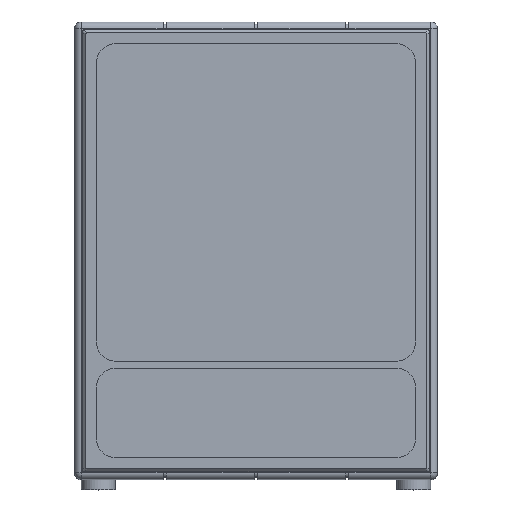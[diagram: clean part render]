
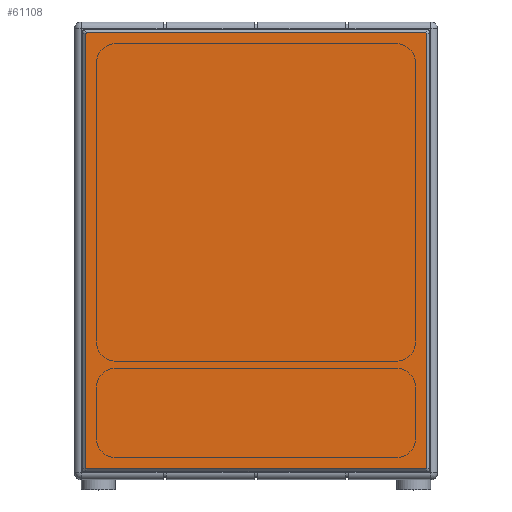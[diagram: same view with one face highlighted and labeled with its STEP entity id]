
A CAD part, top view. The second image highlights one B-rep face of the part: STEP entity #61108.
In plain terms, the highlighted planar face has unit normal (0, 0, 1).
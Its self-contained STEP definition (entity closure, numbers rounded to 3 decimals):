
#1302=ELLIPSE('',#66178,7.275,4.2);
#1305=ELLIPSE('',#66183,7.275,4.2);
#5009=B_SPLINE_CURVE_WITH_KNOTS('',3,(#187790,#187791,#187792,#187793,#187794,
#187795,#187796,#187797,#187798,#187799,#187800,#187801,#187802,#187803),
 .UNSPECIFIED.,.F.,.F.,(4,1,1,1,1,1,1,1,1,1,1,4),(0.,0.091,0.182,
0.273,0.364,0.455,0.545,0.636,
0.727,0.818,0.909,1.),.UNSPECIFIED.);
#5010=B_SPLINE_CURVE_WITH_KNOTS('',3,(#187807,#187808,#187809,#187810,#187811,
#187812,#187813,#187814,#187815,#187816,#187817,#187818,#187819,#187820),
 .UNSPECIFIED.,.F.,.F.,(4,1,1,1,1,1,1,1,1,1,1,4),(0.,0.091,0.182,
0.273,0.364,0.455,0.545,0.636,
0.727,0.818,0.909,1.),.UNSPECIFIED.);
#8776=FACE_OUTER_BOUND('',#12611,.T.);
#12611=EDGE_LOOP('',(#55730,#55731,#55732,#55733,#55734,#55735,#55736,#55737));
#19061=LINE('',#187787,#23668);
#19062=LINE('',#187805,#23669);
#19063=LINE('',#187821,#23670);
#19064=LINE('',#187822,#23671);
#23668=VECTOR('',#80645,499.285);
#23669=VECTOR('',#80648,639.343);
#23670=VECTOR('',#80649,499.285);
#23671=VECTOR('',#80650,639.226);
#29307=VERTEX_POINT('',#187739);
#29308=VERTEX_POINT('',#187741);
#29313=VERTEX_POINT('',#187754);
#29314=VERTEX_POINT('',#187756);
#29317=VERTEX_POINT('',#187785);
#29318=VERTEX_POINT('',#187789);
#29319=VERTEX_POINT('',#187804);
#29320=VERTEX_POINT('',#187806);
#38137=EDGE_CURVE('',#29308,#29307,#1302,.T.);
#38144=EDGE_CURVE('',#29314,#29313,#1305,.T.);
#38152=EDGE_CURVE('',#29313,#29317,#19061,.T.);
#38153=EDGE_CURVE('',#29317,#29318,#5009,.T.);
#38154=EDGE_CURVE('',#29318,#29319,#19062,.T.);
#38155=EDGE_CURVE('',#29319,#29320,#5010,.T.);
#38156=EDGE_CURVE('',#29320,#29308,#19063,.T.);
#38157=EDGE_CURVE('',#29307,#29314,#19064,.T.);
#55730=ORIENTED_EDGE('',*,*,#38144,.T.);
#55731=ORIENTED_EDGE('',*,*,#38152,.T.);
#55732=ORIENTED_EDGE('',*,*,#38153,.T.);
#55733=ORIENTED_EDGE('',*,*,#38154,.T.);
#55734=ORIENTED_EDGE('',*,*,#38155,.T.);
#55735=ORIENTED_EDGE('',*,*,#38156,.T.);
#55736=ORIENTED_EDGE('',*,*,#38137,.T.);
#55737=ORIENTED_EDGE('',*,*,#38157,.T.);
#57587=PLANE('',#66186);
#61108=ADVANCED_FACE('',(#8776),#57587,.F.);
#66178=AXIS2_PLACEMENT_3D('',#187742,#80620,#80621);
#66183=AXIS2_PLACEMENT_3D('',#187757,#80634,#80635);
#66186=AXIS2_PLACEMENT_3D('',#187788,#80646,#80647);
#80620=DIRECTION('center_axis',(0.,0.,1.));
#80621=DIRECTION('ref_axis',(0.707,0.707,0.));
#80634=DIRECTION('center_axis',(0.,0.,1.));
#80635=DIRECTION('ref_axis',(-0.707,0.707,0.));
#80645=DIRECTION('',(0.,-1.,0.));
#80646=DIRECTION('center_axis',(0.,0.,-1.));
#80647=DIRECTION('ref_axis',(0.,-1.,0.));
#80648=DIRECTION('',(1.,0.,0.));
#80649=DIRECTION('',(0.,1.,0.));
#80650=DIRECTION('',(-1.,0.,0.));
#187739=CARTESIAN_POINT('',(319.613,252.583,283.7));
#187741=CARTESIAN_POINT('',(322.583,249.613,283.7));
#187742=CARTESIAN_POINT('Origin',(316.643,246.643,283.7));
#187754=CARTESIAN_POINT('',(-322.583,249.613,283.7));
#187756=CARTESIAN_POINT('',(-319.613,252.583,283.7));
#187757=CARTESIAN_POINT('Origin',(-316.643,246.643,283.7));
#187785=CARTESIAN_POINT('',(-322.583,-249.672,283.7));
#187787=CARTESIAN_POINT('',(-322.583,249.613,283.7));
#187788=CARTESIAN_POINT('Origin',(0.,0.,283.7));
#187789=CARTESIAN_POINT('',(-319.672,-252.5,283.7));
#187790=CARTESIAN_POINT('Ctrl Pts',(-322.583,-249.672,283.7));
#187791=CARTESIAN_POINT('Ctrl Pts',(-322.579,-249.852,283.7));
#187792=CARTESIAN_POINT('Ctrl Pts',(-322.553,-250.191,283.7));
#187793=CARTESIAN_POINT('Ctrl Pts',(-322.454,-250.629,283.7));
#187794=CARTESIAN_POINT('Ctrl Pts',(-322.311,-251.008,283.7));
#187795=CARTESIAN_POINT('Ctrl Pts',(-322.13,-251.336,283.7));
#187796=CARTESIAN_POINT('Ctrl Pts',(-321.912,-251.621,283.7));
#187797=CARTESIAN_POINT('Ctrl Pts',(-321.658,-251.867,283.7));
#187798=CARTESIAN_POINT('Ctrl Pts',(-321.366,-252.077,283.7));
#187799=CARTESIAN_POINT('Ctrl Pts',(-321.031,-252.251,283.7));
#187800=CARTESIAN_POINT('Ctrl Pts',(-320.643,-252.387,283.7));
#187801=CARTESIAN_POINT('Ctrl Pts',(-320.199,-252.477,283.7));
#187802=CARTESIAN_POINT('Ctrl Pts',(-319.852,-252.5,283.7));
#187803=CARTESIAN_POINT('Ctrl Pts',(-319.672,-252.5,283.7));
#187804=CARTESIAN_POINT('',(319.672,-252.5,283.7));
#187805=CARTESIAN_POINT('',(-319.672,-252.5,283.7));
#187806=CARTESIAN_POINT('',(322.583,-249.672,283.7));
#187807=CARTESIAN_POINT('Ctrl Pts',(319.672,-252.5,283.7));
#187808=CARTESIAN_POINT('Ctrl Pts',(319.852,-252.5,283.7));
#187809=CARTESIAN_POINT('Ctrl Pts',(320.199,-252.477,283.7));
#187810=CARTESIAN_POINT('Ctrl Pts',(320.644,-252.386,283.7));
#187811=CARTESIAN_POINT('Ctrl Pts',(321.03,-252.251,283.7));
#187812=CARTESIAN_POINT('Ctrl Pts',(321.366,-252.077,283.7));
#187813=CARTESIAN_POINT('Ctrl Pts',(321.658,-251.867,283.7));
#187814=CARTESIAN_POINT('Ctrl Pts',(321.912,-251.621,283.7));
#187815=CARTESIAN_POINT('Ctrl Pts',(322.129,-251.336,283.7));
#187816=CARTESIAN_POINT('Ctrl Pts',(322.311,-251.008,283.7));
#187817=CARTESIAN_POINT('Ctrl Pts',(322.454,-250.629,283.7));
#187818=CARTESIAN_POINT('Ctrl Pts',(322.553,-250.191,283.7));
#187819=CARTESIAN_POINT('Ctrl Pts',(322.579,-249.852,283.7));
#187820=CARTESIAN_POINT('Ctrl Pts',(322.583,-249.672,283.7));
#187821=CARTESIAN_POINT('',(322.583,-249.672,283.7));
#187822=CARTESIAN_POINT('',(319.613,252.583,283.7));
